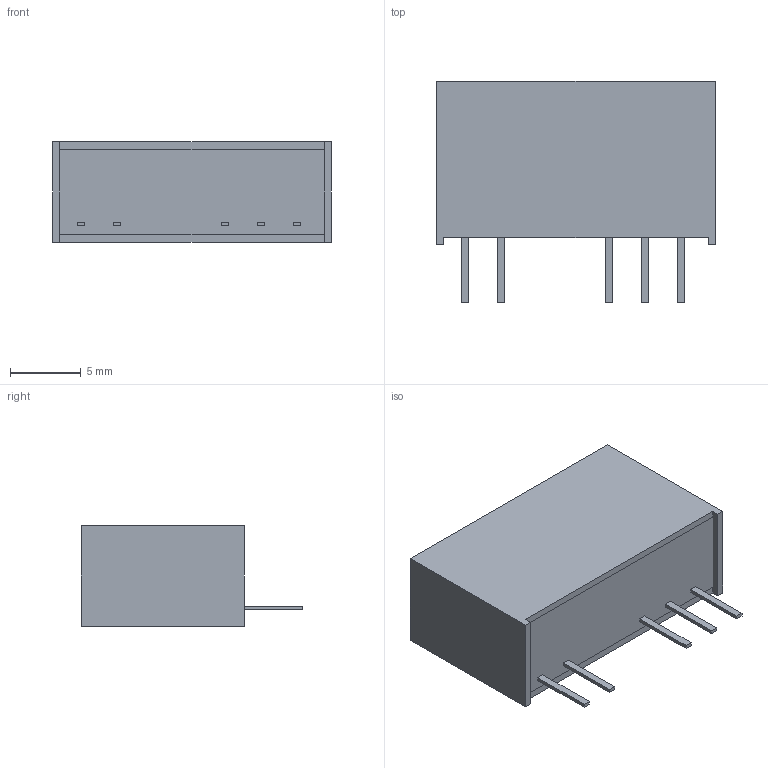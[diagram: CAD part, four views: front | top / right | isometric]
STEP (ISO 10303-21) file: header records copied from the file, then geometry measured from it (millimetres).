
FILE_DESCRIPTION(/* description */ (''),/* implementation_level */ '2;1');
FILE_NAME(/* name */ '\\192.168.1.249\上下蓋圖面查詢表\Data Sheet圖面\1-1傳統機種\CTC\產品\C series\N1916(CPU-xxxxDP)-(C2-086-00)\N1916-DP.stp',/* time_stamp */ '2019-07-31T09:22:07+08:00',/* author */ ('ching'),/* organization */ (''),/* preprocessor_version */ 'ST-DEVELOPER v16.5',/* originating_system */ 'Autodesk Inventor 2017',/* authorisation */ '');
FILE_SCHEMA (('AUTOMOTIVE_DESIGN { 1 0 10303 214 3 1 1 }'));
Length unit declared in the file: millimetre
Products named in the file (1): CPU-1205P
Bounding box: 19.65 x 15.6 x 7.05 mm (x, y, z)
Volume: 1530.3 mm3; surface area: 2178.4 mm2
Topology: 7 solids, 7 shells, 50 faces, 108 edges, 72 vertices
Faces by surface type: plane 50
Entity records: 1377 total; most frequent: CARTESIAN_POINT 231, ORIENTED_EDGE 216, DIRECTION 210, LINE 108, VECTOR 108, EDGE_CURVE 108, VERTEX_POINT 72, AXIS2_PLACEMENT_3D 51
